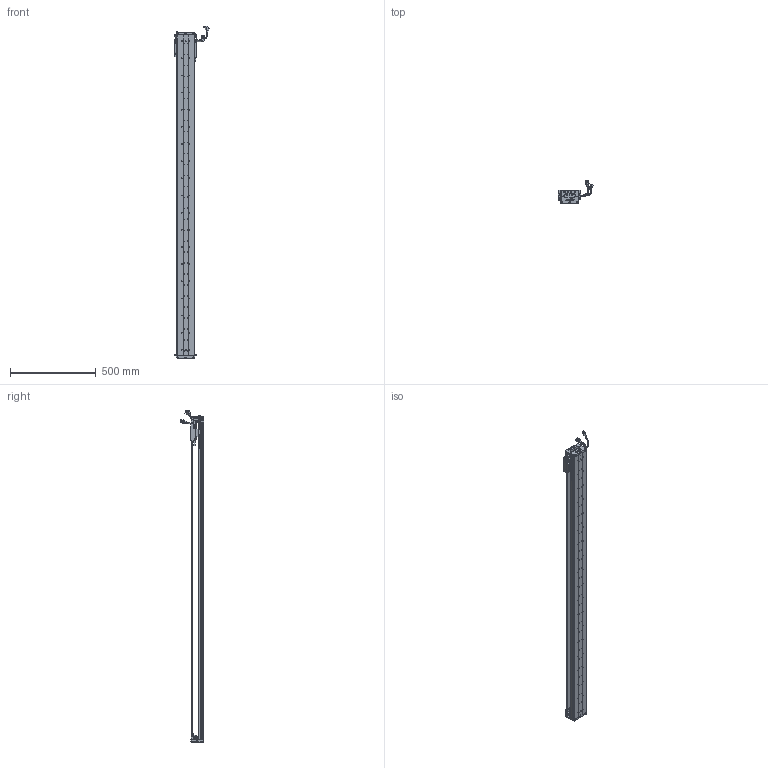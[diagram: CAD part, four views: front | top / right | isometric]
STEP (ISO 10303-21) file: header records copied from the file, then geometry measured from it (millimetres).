
FILE_DESCRIPTION (( 'STEP AP203' ), '1' );
FILE_NAME ('Z1-RY100D-1-L500-B-K.SLDASM_1700.step', '2021-05-17T01:42:25', ( '盈信电脑' ), ( '东莞市道滘镇水果街19号' ), 'SwSTEP 2.0', 'SolidWorks 2016', '' );
FILE_SCHEMA (( 'CONFIG_CONTROL_DESIGN' ));
Length unit declared in the file: millimetre
Products named in the file (36): 080黍杅芛假蚾釱21遴; SEAL; COVER; SCREW-M1.6-3; PSLH080_PSLF2; 100-Z-臏賑輸盄裔(21遴); HOLDER0; 覜茼ん672; COVER-Part-1; Z1-RY100-L500詩湍90mm遵_1700; Z-RY100D詩湍奻揤裔; HARNESS; 140雄赽晤鎢ん堤盄; SEAL-Part-1; SCALE; HARNESS-Part-1; Z1-RY100D-500-倰第菁釱_1700; PBU_SHEET; SCALE-Part-2; HARNESS-Part-2; SCREW-M1.7-1; SCREW-M1.7; Z-100詩湍傷裔啣; Z-RY100D詩湍狟揤裔; Z-RY100D覜茼んえ; SHIELDPLATE; LABEL-Part-1; 140蚥薯蝶輸; SCREW-M1.6-2; 榋妏寠巭燃_暯_M2_2; SCREW-M1.6-1; SCALE-Part-1; Z1-RY100铝滑块（21款）; Z1-RY100D-1-L500-B-K.SLDASM_1700; SCREW-M1.6; LABEL
Assembly tree (44 placements, depth 4):
  Z1-RY100D-1-L500-B-K.SLDASM_1700
    Z1-RY100D-500-倰第菁釱_1700
    Z1-RY100铝滑块（21款）
    PSLH080_PSLF2
      SCALE
        SCALE-Part-1
        SCALE-Part-2
      HARNESS
        HARNESS-Part-1
        HARNESS-Part-2
      LABEL
        LABEL-Part-1
      COVER
        COVER-Part-1
      SEAL
        SEAL-Part-1
      榋妏寠巭燃_暯_M2_2
      SHIELDPLATE
      SCREW-M1.7
      SCREW-M1.7-1
      PBU_SHEET
      SCREW-M1.6
      SCREW-M1.6-1
      SCREW-M1.6-2
      SCREW-M1.6-3
      HOLDER0
    080黍杅芛假蚾釱21遴
    Z-100詩湍傷裔啣  x2
    140蚥薯蝶輸  x2
    覜茼ん672  x4
    Z-RY100D覜茼んえ  x3
    100-Z-臏賑輸盄裔(21遴)
    140雄赽晤鎢ん堤盄
    Z1-RY100-L500詩湍90mm遵_1700
    Z-RY100D詩湍狟揤裔  x2
    Z-RY100D詩湍奻揤裔  x2
Bounding box: 205.83 x 136.11 x 1935.43 mm (x, y, z)
Volume: 3510783.3 mm3; surface area: 1400758.1 mm2
Topology: 39 solids, 39 shells, 2818 faces, 7585 edges, 4840 vertices
Faces by surface type: cylinder 1278, plane 1208, cone 210, torus 69, bspline 53
Entity records: 76933 total; most frequent: CARTESIAN_POINT 16233, DIRECTION 12243, ORIENTED_EDGE 11602, EDGE_CURVE 5801, AXIS2_PLACEMENT_3D 4542, VERTEX_POINT 3748, VECTOR 3159, LINE 3159
